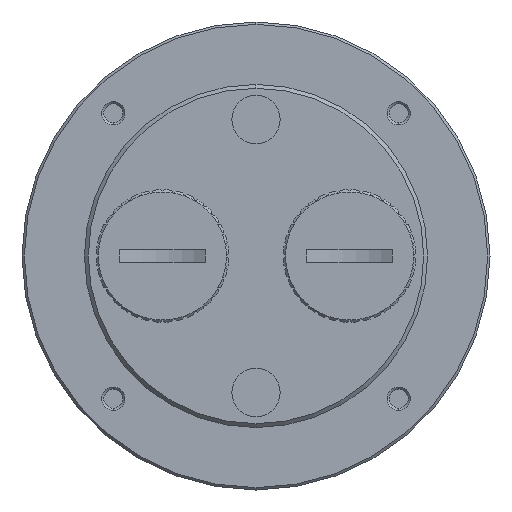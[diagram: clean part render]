
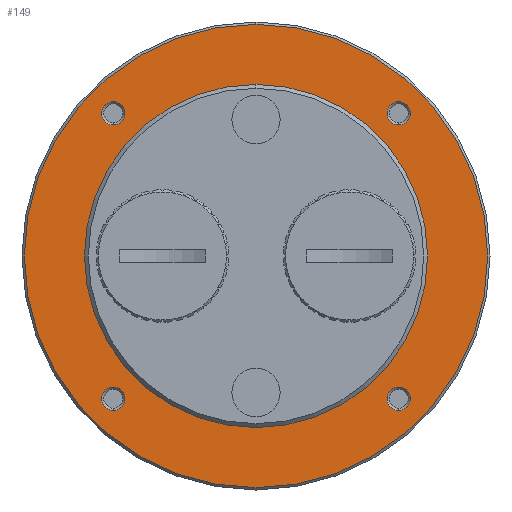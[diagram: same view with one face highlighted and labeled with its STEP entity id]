
A CAD part, left-side view. The second image highlights one B-rep face of the part: STEP entity #149.
In plain terms, the highlighted planar face has unit normal (-1, 0, 0).
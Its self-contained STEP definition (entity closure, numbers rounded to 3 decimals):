
#149 = ADVANCED_FACE ( 'NONE', ( #2388, #2390, #2405, #2414, #2394, #2411 ), #3152, .F. ) ;
#289 = EDGE_LOOP ( 'NONE', ( #936, #1020 ) ) ;
#290 = EDGE_LOOP ( 'NONE', ( #902, #873 ) ) ;
#804 = EDGE_LOOP ( 'NONE', ( #876, #903 ) ) ;
#823 = EDGE_LOOP ( 'NONE', ( #925, #875 ) ) ;
#850 = EDGE_LOOP ( 'NONE', ( #880, #874 ) ) ;
#866 = EDGE_LOOP ( 'NONE', ( #918, #919 ) ) ;
#873 = ORIENTED_EDGE ( 'NONE', *, *, #1888, .T. ) ;
#874 = ORIENTED_EDGE ( 'NONE', *, *, #1676, .F. ) ;
#875 = ORIENTED_EDGE ( 'NONE', *, *, #1879, .T. ) ;
#876 = ORIENTED_EDGE ( 'NONE', *, *, #1604, .T. ) ;
#880 = ORIENTED_EDGE ( 'NONE', *, *, #1666, .F. ) ;
#902 = ORIENTED_EDGE ( 'NONE', *, *, #1612, .T. ) ;
#903 = ORIENTED_EDGE ( 'NONE', *, *, #1659, .T. ) ;
#918 = ORIENTED_EDGE ( 'NONE', *, *, #1587, .T. ) ;
#919 = ORIENTED_EDGE ( 'NONE', *, *, #1892, .T. ) ;
#925 = ORIENTED_EDGE ( 'NONE', *, *, #1590, .T. ) ;
#936 = ORIENTED_EDGE ( 'NONE', *, *, #1708, .T. ) ;
#1020 = ORIENTED_EDGE ( 'NONE', *, *, #1686, .T. ) ;
#1045 = VERTEX_POINT ( 'NONE', #4397 ) ;
#1055 = VERTEX_POINT ( 'NONE', #4400 ) ;
#1072 = VERTEX_POINT ( 'NONE', #4447 ) ;
#1075 = VERTEX_POINT ( 'NONE', #4404 ) ;
#1076 = VERTEX_POINT ( 'NONE', #4405 ) ;
#1093 = VERTEX_POINT ( 'NONE', #4457 ) ;
#1097 = VERTEX_POINT ( 'NONE', #4487 ) ;
#1110 = VERTEX_POINT ( 'NONE', #4468 ) ;
#1116 = VERTEX_POINT ( 'NONE', #4466 ) ;
#1124 = VERTEX_POINT ( 'NONE', #4481 ) ;
#1128 = VERTEX_POINT ( 'NONE', #4500 ) ;
#1166 = VERTEX_POINT ( 'NONE', #4578 ) ;
#1587 = EDGE_CURVE ( 'NONE', #1055, #1045, #2737, .T. ) ;
#1590 = EDGE_CURVE ( 'NONE', #1076, #1110, #2739, .T. ) ;
#1604 = EDGE_CURVE ( 'NONE', #1124, #1093, #2758, .T. ) ;
#1612 = EDGE_CURVE ( 'NONE', #1128, #1116, #2789, .T. ) ;
#1659 = EDGE_CURVE ( 'NONE', #1093, #1124, #2874, .T. ) ;
#1666 = EDGE_CURVE ( 'NONE', #1166, #1072, #2857, .T. ) ;
#1676 = EDGE_CURVE ( 'NONE', #1072, #1166, #2922, .T. ) ;
#1686 = EDGE_CURVE ( 'NONE', #1075, #1097, #2943, .T. ) ;
#1708 = EDGE_CURVE ( 'NONE', #1097, #1075, #2915, .T. ) ;
#1879 = EDGE_CURVE ( 'NONE', #1110, #1076, #3086, .T. ) ;
#1888 = EDGE_CURVE ( 'NONE', #1116, #1128, #3076, .T. ) ;
#1892 = EDGE_CURVE ( 'NONE', #1045, #1055, #1978, .T. ) ;
#1978 = CIRCLE ( 'NONE', #3639, 1.5 ) ;
#2388 = FACE_BOUND ( 'NONE', #290, .T. ) ;
#2390 = FACE_BOUND ( 'NONE', #823, .T. ) ;
#2394 = FACE_BOUND ( 'NONE', #850, .T. ) ;
#2405 = FACE_BOUND ( 'NONE', #804, .T. ) ;
#2411 = FACE_OUTER_BOUND ( 'NONE', #289, .T. ) ;
#2414 = FACE_BOUND ( 'NONE', #866, .T. ) ;
#2737 = CIRCLE ( 'NONE', #3941, 1.5 ) ;
#2739 = CIRCLE ( 'NONE', #3957, 1.5 ) ;
#2758 = CIRCLE ( 'NONE', #3945, 1.5 ) ;
#2789 = CIRCLE ( 'NONE', #3917, 1.5 ) ;
#2857 = CIRCLE ( 'NONE', #3997, 22. ) ;
#2874 = CIRCLE ( 'NONE', #4012, 1.5 ) ;
#2915 = CIRCLE ( 'NONE', #3974, 29.7 ) ;
#2922 = CIRCLE ( 'NONE', #4034, 22. ) ;
#2943 = CIRCLE ( 'NONE', #4031, 29.7 ) ;
#3076 = CIRCLE ( 'NONE', #3637, 1.5 ) ;
#3086 = CIRCLE ( 'NONE', #3663, 1.5 ) ;
#3141 = DIRECTION ( 'NONE',  ( 0., 0., -1. ) ) ;
#3152 = PLANE ( 'NONE',  #3777 ) ;
#3169 = CARTESIAN_POINT ( 'NONE',  ( -13., 22., 0. ) ) ;
#3181 = DIRECTION ( 'NONE',  ( 1., 0., 0. ) ) ;
#3637 = AXIS2_PLACEMENT_3D ( 'NONE', #6052, #6070, #6053 ) ;
#3639 = AXIS2_PLACEMENT_3D ( 'NONE', #6056, #6058, #6038 ) ;
#3663 = AXIS2_PLACEMENT_3D ( 'NONE', #5993, #6002, #6004 ) ;
#3777 = AXIS2_PLACEMENT_3D ( 'NONE', #3169, #3181, #3141 ) ;
#3917 = AXIS2_PLACEMENT_3D ( 'NONE', #5345, #5324, #5356 ) ;
#3941 = AXIS2_PLACEMENT_3D ( 'NONE', #5240, #5263, #5264 ) ;
#3945 = AXIS2_PLACEMENT_3D ( 'NONE', #5315, #5317, #5299 ) ;
#3957 = AXIS2_PLACEMENT_3D ( 'NONE', #5249, #5250, #5297 ) ;
#3974 = AXIS2_PLACEMENT_3D ( 'NONE', #4646, #4662, #4642 ) ;
#3997 = AXIS2_PLACEMENT_3D ( 'NONE', #5475, #5482, #5467 ) ;
#4012 = AXIS2_PLACEMENT_3D ( 'NONE', #5460, #5484, #5464 ) ;
#4031 = AXIS2_PLACEMENT_3D ( 'NONE', #5557, #5535, #5536 ) ;
#4034 = AXIS2_PLACEMENT_3D ( 'NONE', #5488, #5487, #5514 ) ;
#4397 = CARTESIAN_POINT ( 'NONE',  ( -13., 18.307, 16.807 ) ) ;
#4400 = CARTESIAN_POINT ( 'NONE',  ( -13., 18.307, 19.807 ) ) ;
#4404 = CARTESIAN_POINT ( 'NONE',  ( -13., 0., 29.7 ) ) ;
#4405 = CARTESIAN_POINT ( 'NONE',  ( -13., -18.307, -16.807 ) ) ;
#4447 = CARTESIAN_POINT ( 'NONE',  ( -13., 0., -22. ) ) ;
#4457 = CARTESIAN_POINT ( 'NONE',  ( -13., 18.307, -19.807 ) ) ;
#4466 = CARTESIAN_POINT ( 'NONE',  ( -13., -18.307, 16.807 ) ) ;
#4468 = CARTESIAN_POINT ( 'NONE',  ( -13., -18.307, -19.807 ) ) ;
#4481 = CARTESIAN_POINT ( 'NONE',  ( -13., 18.307, -16.807 ) ) ;
#4487 = CARTESIAN_POINT ( 'NONE',  ( -13., 0., -29.7 ) ) ;
#4500 = CARTESIAN_POINT ( 'NONE',  ( -13., -18.307, 19.807 ) ) ;
#4578 = CARTESIAN_POINT ( 'NONE',  ( -13., 0., 22. ) ) ;
#4642 = DIRECTION ( 'NONE',  ( 0., 0., 1. ) ) ;
#4646 = CARTESIAN_POINT ( 'NONE',  ( -13., 0., 0. ) ) ;
#4662 = DIRECTION ( 'NONE',  ( -1., 0., 0. ) ) ;
#5240 = CARTESIAN_POINT ( 'NONE',  ( -13., 18.307, 18.307 ) ) ;
#5249 = CARTESIAN_POINT ( 'NONE',  ( -13., -18.307, -18.307 ) ) ;
#5250 = DIRECTION ( 'NONE',  ( 1., 0., 0. ) ) ;
#5263 = DIRECTION ( 'NONE',  ( 1., 0., 0. ) ) ;
#5264 = DIRECTION ( 'NONE',  ( 0., 0., -1. ) ) ;
#5297 = DIRECTION ( 'NONE',  ( 0., 0., -1. ) ) ;
#5299 = DIRECTION ( 'NONE',  ( 0., 0., -1. ) ) ;
#5315 = CARTESIAN_POINT ( 'NONE',  ( -13., 18.307, -18.307 ) ) ;
#5317 = DIRECTION ( 'NONE',  ( 1., 0., 0. ) ) ;
#5324 = DIRECTION ( 'NONE',  ( 1., 0., 0. ) ) ;
#5345 = CARTESIAN_POINT ( 'NONE',  ( -13., -18.307, 18.307 ) ) ;
#5356 = DIRECTION ( 'NONE',  ( 0., 0., -1. ) ) ;
#5460 = CARTESIAN_POINT ( 'NONE',  ( -13., 18.307, -18.307 ) ) ;
#5464 = DIRECTION ( 'NONE',  ( 0., 0., -1. ) ) ;
#5467 = DIRECTION ( 'NONE',  ( 0., 0., 1. ) ) ;
#5475 = CARTESIAN_POINT ( 'NONE',  ( -13., 0., 0. ) ) ;
#5482 = DIRECTION ( 'NONE',  ( -1., 0., 0. ) ) ;
#5484 = DIRECTION ( 'NONE',  ( 1., 0., 0. ) ) ;
#5487 = DIRECTION ( 'NONE',  ( -1., 0., 0. ) ) ;
#5488 = CARTESIAN_POINT ( 'NONE',  ( -13., 0., 0. ) ) ;
#5514 = DIRECTION ( 'NONE',  ( 0., 0., 1. ) ) ;
#5535 = DIRECTION ( 'NONE',  ( -1., 0., 0. ) ) ;
#5536 = DIRECTION ( 'NONE',  ( 0., 0., 1. ) ) ;
#5557 = CARTESIAN_POINT ( 'NONE',  ( -13., 0., 0. ) ) ;
#5993 = CARTESIAN_POINT ( 'NONE',  ( -13., -18.307, -18.307 ) ) ;
#6002 = DIRECTION ( 'NONE',  ( 1., 0., 0. ) ) ;
#6004 = DIRECTION ( 'NONE',  ( 0., 0., -1. ) ) ;
#6038 = DIRECTION ( 'NONE',  ( 0., 0., -1. ) ) ;
#6052 = CARTESIAN_POINT ( 'NONE',  ( -13., -18.307, 18.307 ) ) ;
#6053 = DIRECTION ( 'NONE',  ( 0., 0., -1. ) ) ;
#6056 = CARTESIAN_POINT ( 'NONE',  ( -13., 18.307, 18.307 ) ) ;
#6058 = DIRECTION ( 'NONE',  ( 1., 0., 0. ) ) ;
#6070 = DIRECTION ( 'NONE',  ( 1., 0., 0. ) ) ;
